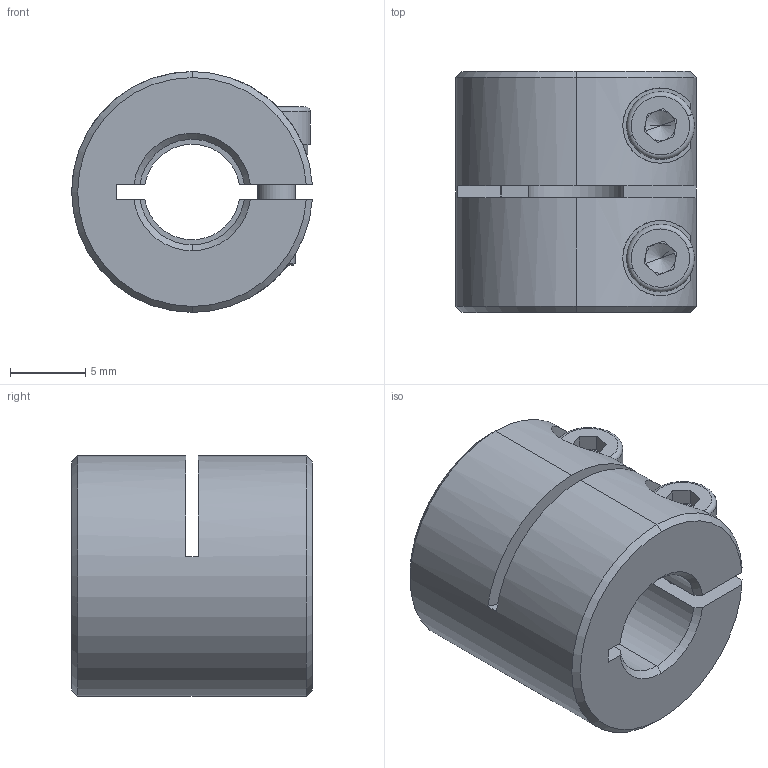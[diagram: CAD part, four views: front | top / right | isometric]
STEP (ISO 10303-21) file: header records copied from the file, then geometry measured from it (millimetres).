
FILE_DESCRIPTION (( 'STEP AP203' ), '1' );
FILE_NAME ('LL-B-D16L16-6.35-7.STEP', '2021-11-03T02:50:19', ( '' ), ( '' ), 'SwSTEP 2.0', 'SolidWorks 2018', '' );
FILE_SCHEMA (( 'CONFIG_CONTROL_DESIGN' ));
Length unit declared in the file: millimetre
Products named in the file (1): LL-B-D16L16-6.35-7
Bounding box: 15.98 x 16 x 16 mm (x, y, z)
Volume: 2454.6 mm3; surface area: 2005.5 mm2
Topology: 1 solids, 1 shells, 121 faces, 313 edges, 196 vertices
Faces by surface type: plane 52, cylinder 45, cone 20, torus 4
Entity records: 3948 total; most frequent: CARTESIAN_POINT 879, DIRECTION 653, ORIENTED_EDGE 618, EDGE_CURVE 309, AXIS2_PLACEMENT_3D 254, VERTEX_POINT 196, VECTOR 145, LINE 145
